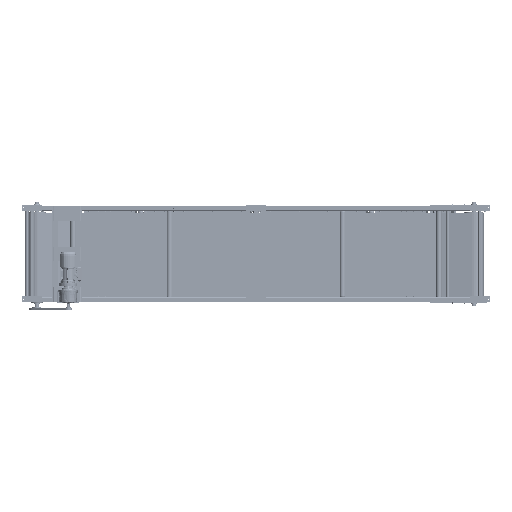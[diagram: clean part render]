
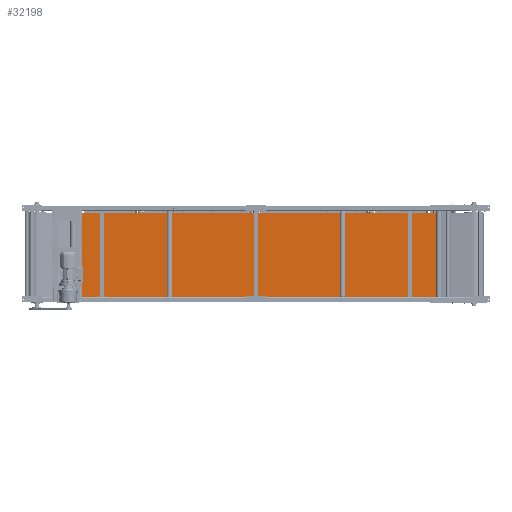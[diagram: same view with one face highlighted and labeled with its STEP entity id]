
A CAD part, front view. The second image highlights one B-rep face of the part: STEP entity #32198.
In plain terms, the highlighted planar face has unit normal (-0.001, -1, 0).
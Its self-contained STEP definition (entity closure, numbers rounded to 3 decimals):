
#23680=PLANE('',#127332);
#32198=ADVANCED_FACE('',(#40126),#23680,.F.);
#40126=FACE_OUTER_BOUND('',#46181,.T.);
#46181=EDGE_LOOP('',(#74201,#74202,#74203,#74204));
#52955=LINE('',#179490,#59510);
#52966=LINE('',#179521,#59521);
#52967=LINE('',#179525,#59522);
#52968=LINE('',#179526,#59523);
#59510=VECTOR('',#143851,1.);
#59521=VECTOR('',#143884,1.);
#59522=VECTOR('',#143889,1.);
#59523=VECTOR('',#143890,1.);
#74201=ORIENTED_EDGE('',*,*,#108942,.T.);
#74202=ORIENTED_EDGE('',*,*,#108924,.F.);
#74203=ORIENTED_EDGE('',*,*,#108943,.F.);
#74204=ORIENTED_EDGE('',*,*,#108940,.T.);
#97623=VERTEX_POINT('',#179485);
#97625=VERTEX_POINT('',#179489);
#97634=VERTEX_POINT('',#179520);
#97635=VERTEX_POINT('',#179522);
#108924=EDGE_CURVE('',#97625,#97623,#52955,.T.);
#108940=EDGE_CURVE('',#97635,#97634,#52966,.T.);
#108942=EDGE_CURVE('',#97634,#97623,#52967,.T.);
#108943=EDGE_CURVE('',#97635,#97625,#52968,.T.);
#127332=AXIS2_PLACEMENT_3D('',#179527,#143891,#143892);
#143851=DIRECTION('',(0.,0.,-1.));
#143884=DIRECTION('',(0.,0.,-1.));
#143889=DIRECTION('',(1.,-0.001,0.));
#143890=DIRECTION('',(1.,-0.001,0.));
#143891=DIRECTION('',(0.001,1.,0.));
#143892=DIRECTION('',(1.,-0.001,0.));
#179485=CARTESIAN_POINT('',(1585.013,-30.6,0.));
#179489=CARTESIAN_POINT('',(1585.013,-30.6,733.));
#179490=CARTESIAN_POINT('',(1585.013,-30.6,733.));
#179520=CARTESIAN_POINT('',(-1584.987,-28.6,0.));
#179521=CARTESIAN_POINT('',(-1584.987,-28.6,733.));
#179522=CARTESIAN_POINT('',(-1584.987,-28.6,733.));
#179525=CARTESIAN_POINT('',(-4.956,-29.597,0.));
#179526=CARTESIAN_POINT('',(-4.956,-29.597,733.));
#179527=CARTESIAN_POINT('',(-4.956,-29.597,733.));
